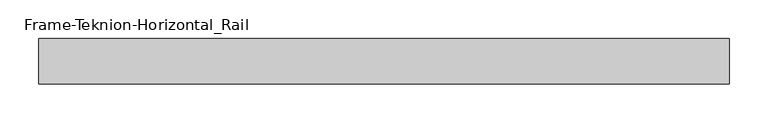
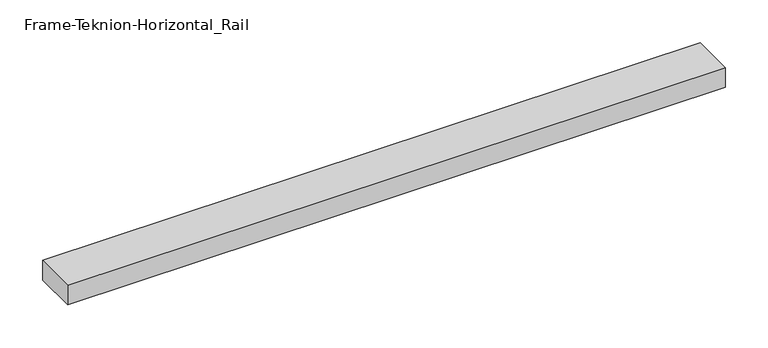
"""IFC4 building model written with IfcOpenShell, lengths in millimetres: proxy geometry, Frame-Teknion-Horizontal_Rail : FPKK."""

from ifc_helpers import new_model, si_unit, frame, origin, place, context, project, spatial, polyline, outline, extrude, source, transform, mapped, element, save


def frame_teknion_horizontal_rail_46ee653b(model_context):
    return source(origin(), model_context, "Body", "SweptSolid", [
        extrude(outline(polyline([(-443.2101562, -29.2199219), (-443.2101562, 29.2199219), (443.2101563, 29.2199219), (443.2101563, -29.2199219), (-443.2101562, -29.2199219)])), frame((0.0, 0.0, -13.9898438), z_axis=(0.0, 0.0, 1.0), x_axis=(1.0, 0.0, 0.0)), (0.0, 0.0, 1.0), 27.9796875),
    ])


if __name__ == "__main__":
    model = new_model("IFC4")
    model_context = context("Model", 3, world=origin())
    ifc_project = project(units=[si_unit("LENGTHUNIT", "METRE", prefix="MILLI")], contexts=[model_context])
    site = spatial("IfcSite", under=ifc_project)
    building = spatial("IfcBuilding", under=site)
    placement = place(None, origin())
    frame_teknion_horizontal_rail_shape = frame_teknion_horizontal_rail_46ee653b(model_context)
    element("IfcBuildingElementProxy", 1, Name="Frame-Teknion-Horizontal_Rail : FPKK", ObjectType="Frame-Teknion-Horizontal_Rail : FPKK", at=placement, inside=building, context=model_context, shape_type="MappedRepresentation", body=[
        mapped(frame_teknion_horizontal_rail_shape, transform((0.0, 0.0, 0.0), x_axis=(1.0, 0.0, 0.0), y_axis=(0.0, 1.0, 0.0), z_axis=(0.0, 0.0, 1.0))),
    ])
    save(model, "model.ifc")
